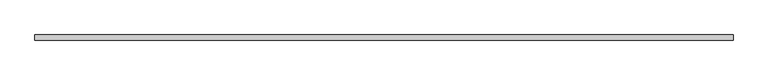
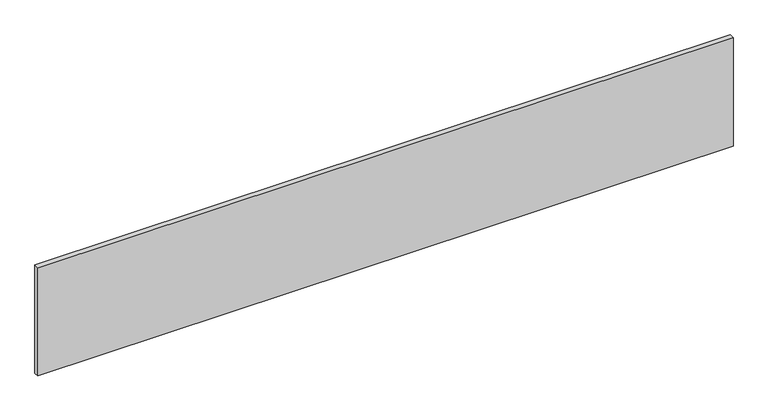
"""IFC4 building model written with IfcOpenShell, lengths in millimetres: proxy geometry, GM_Панель фасадная : Декоративные перемычки."""

from ifc_helpers import new_model, si_unit, origin, origin_with_axes, place, context, project, spatial, polyline, outline, extrude, source, transform, mapped, element, save


def generic_models_d241a2ad(model_context):
    return source(origin(), model_context, "Body", "SweptSolid", [
        extrude(outline(polyline([(-2605.0, 125.0), (125.0, 125.0), (125.0, 105.0), (-2605.0, 105.0), (-2605.0, 125.0)])), origin_with_axes(), (0.0, 0.0, 1.0), 450.0),
    ])


if __name__ == "__main__":
    model = new_model("IFC4")
    model_context = context("Model", 3, world=origin())
    ifc_project = project(units=[si_unit("LENGTHUNIT", "METRE", prefix="MILLI")], contexts=[model_context])
    site = spatial("IfcSite", under=ifc_project)
    building = spatial("IfcBuilding", under=site)
    placement = place(None, origin())
    generic_models_shape = generic_models_d241a2ad(model_context)
    element("IfcBuildingElementProxy", 1, Name="GM_Панель фасадная : Декоративные перемычки", ObjectType="GM_Панель фасадная : Декоративные перемычки", at=placement, inside=building, context=model_context, shape_type="MappedRepresentation", body=[
        mapped(generic_models_shape, transform((0.0, 0.0, 0.0), x_axis=(1.0, 0.0, 0.0), y_axis=(0.0, 1.0, 0.0), z_axis=(0.0, 0.0, 1.0))),
    ])
    save(model, "model.ifc")
